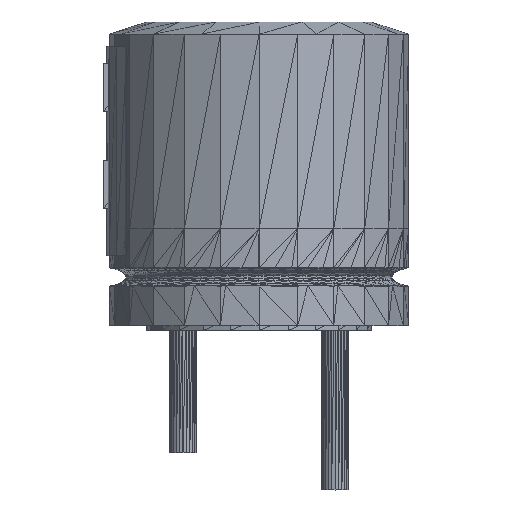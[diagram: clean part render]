
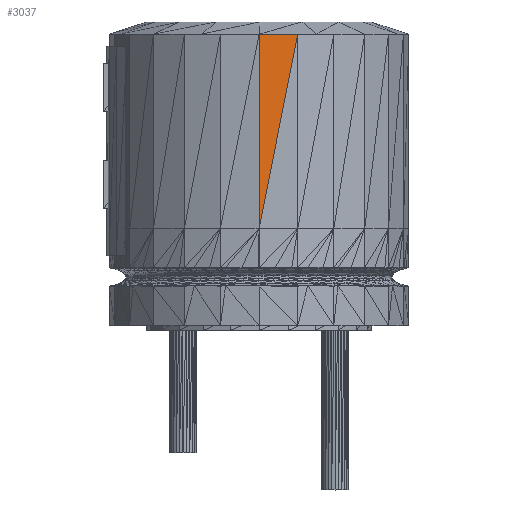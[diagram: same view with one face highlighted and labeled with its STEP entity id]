
A CAD part, front view. The second image highlights one B-rep face of the part: STEP entity #3037.
In plain terms, the highlighted planar face has unit normal (0.131, -0.991, 0).
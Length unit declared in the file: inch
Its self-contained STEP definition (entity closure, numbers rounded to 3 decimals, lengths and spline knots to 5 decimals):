
#2253=CARTESIAN_POINT('',(0.03559,-0.13287,0.27256));
#2254=VERTEX_POINT('',#2253);
#2276=CARTESIAN_POINT('',(0.,-0.13756,0.27256));
#2277=VERTEX_POINT('',#2276);
#2278=CARTESIAN_POINT('',(-0.,-0.13756,0.27256));
#2279=DIRECTION('',(0.991,0.131,0.));
#2280=VECTOR('',#2279,0.03589);
#2281=LINE('',#2278,#2280);
#2282=EDGE_CURVE('',#2277,#2254,#2281,.T.);
#3004=CARTESIAN_POINT('',(0.,-0.13752,0.09382));
#3005=VERTEX_POINT('',#3004);
#3006=CARTESIAN_POINT('',(0.,-0.13752,0.09382));
#3007=DIRECTION('',(0.195,0.026,0.98));
#3008=VECTOR('',#3007,0.18231);
#3009=LINE('',#3006,#3008);
#3010=EDGE_CURVE('',#3005,#2254,#3009,.T.);
#3022=CARTESIAN_POINT('',(0.03559,-0.13287,0.27256));
#3023=DIRECTION('',(-0.131,0.991,0.));
#3024=DIRECTION('',(0.991,0.131,0.));
#3025=AXIS2_PLACEMENT_3D('',#3022,#3023,#3024);
#3026=PLANE('',#3025);
#3027=ORIENTED_EDGE('',*,*,#2282,.F.);
#3028=CARTESIAN_POINT('',(0.,-0.13752,0.09382));
#3029=DIRECTION('',(0.,0.,1.));
#3030=VECTOR('',#3029,0.17874);
#3031=LINE('',#3028,#3030);
#3032=EDGE_CURVE('',#3005,#2277,#3031,.T.);
#3033=ORIENTED_EDGE('',*,*,#3032,.F.);
#3034=ORIENTED_EDGE('',*,*,#3010,.T.);
#3035=EDGE_LOOP('',(#3027,#3033,#3034));
#3036=FACE_BOUND('',#3035,.T.);
#3037=ADVANCED_FACE('',(#3036),#3026,.F.);
